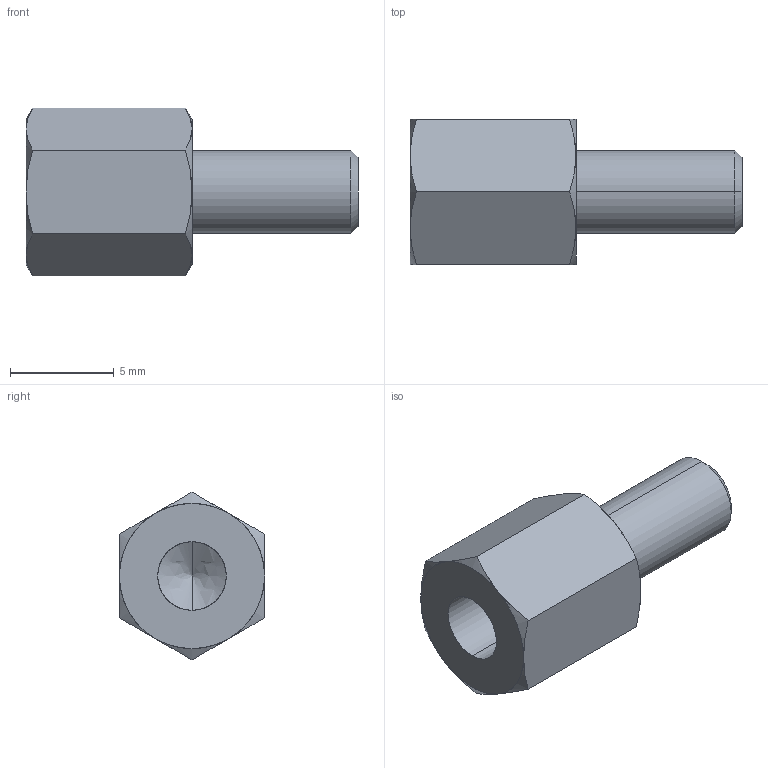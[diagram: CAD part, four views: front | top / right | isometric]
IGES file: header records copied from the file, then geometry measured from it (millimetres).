
Start section: SolidWorks IGES file using analytic representation for surfaces
Global section: file name: C:\Users\render1\Desktop\P0185_IGES\P0185.04-08.igs; native system: SolidWorks 2009; preprocessor: SolidWorks 2009; author: render1; date: 130627.112002; units: millimetre
Bounding box: 16 x 7 x 8.08 mm (x, y, z)
Surface area: 425.8 mm2 (no closed solid volume)
Topology: 0 solids, 0 shells, 29 faces, 320 edges, 318 vertices
Faces by surface type: revolution 20, bspline 9
